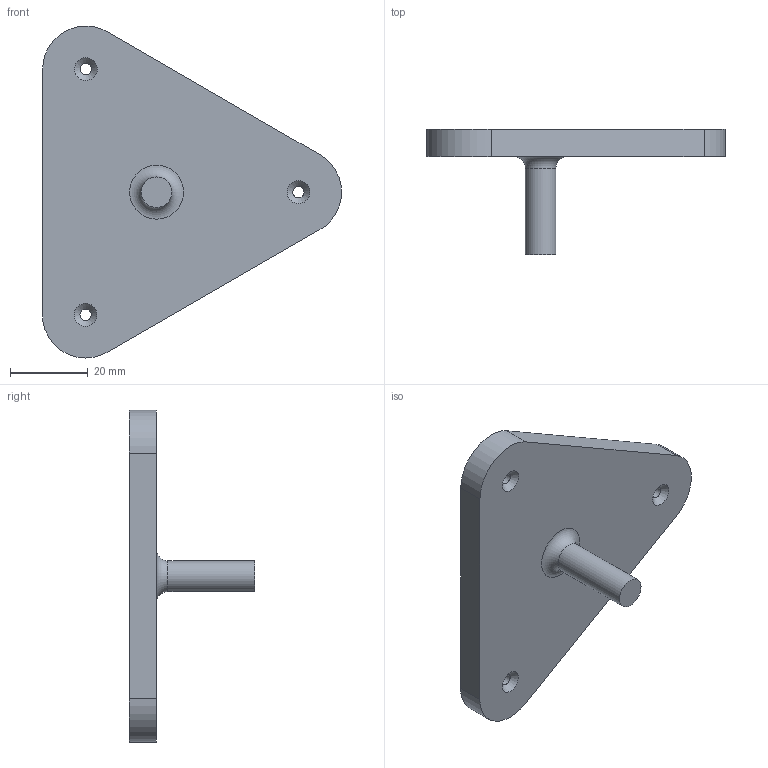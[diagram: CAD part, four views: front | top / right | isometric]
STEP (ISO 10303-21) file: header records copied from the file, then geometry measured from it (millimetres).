
FILE_DESCRIPTION(/* description */ ('STEP AP242 Edition 2','CAx-IF Rec.Pracs.---Representation and Presentation of Product Manufacturing Information (PMI)---4.0---2014-10-13','CAx-IF Rec.Pracs.---3D Tessellated Geometry---0.4---2014-09-14','2;1','CAx-IF Rec.Pracs.---User Defined Attributes---1.5---2016-08-15'),/* implementation_level */ '2;1');
FILE_NAME(/* name */ 'Assembly V2 - Part 6 (1)',/* time_stamp */ '2026-02-05T22:44:42Z',/* author */ (''),/* organization */ (''),/* preprocessor_version */ 'ST-DEVELOPER v20',/* originating_system */ 'ONSHAPE BY PTC INC, 1.210',/* authorisation */ ' ');
FILE_SCHEMA (('AP242_MANAGED_MODEL_BASED_3D_ENGINEERING_MIM_LF { 1 0 10303 442 3 1 4 }'));
Length unit declared in the file: metre
Products named in the file (1): Part 6
Bounding box: 77.15 x 32.4 x 85.61 mm (x, y, z)
Volume: 30811.9 mm3; surface area: 11041.8 mm2
Topology: 1 solids, 1 shells, 17 faces, 38 edges, 24 vertices
Faces by surface type: cylinder 7, plane 6, cone 3, torus 1
Full cylindrical faces by diameter (mm): 2.9 x3, 7.9 x1
Entity records: 472 total; most frequent: DIRECTION 84, CARTESIAN_POINT 72, ORIENTED_EDGE 60, AXIS2_PLACEMENT_3D 36, EDGE_LOOP 32, FACE_BOUND 32, EDGE_CURVE 30, VERTEX_POINT 24
